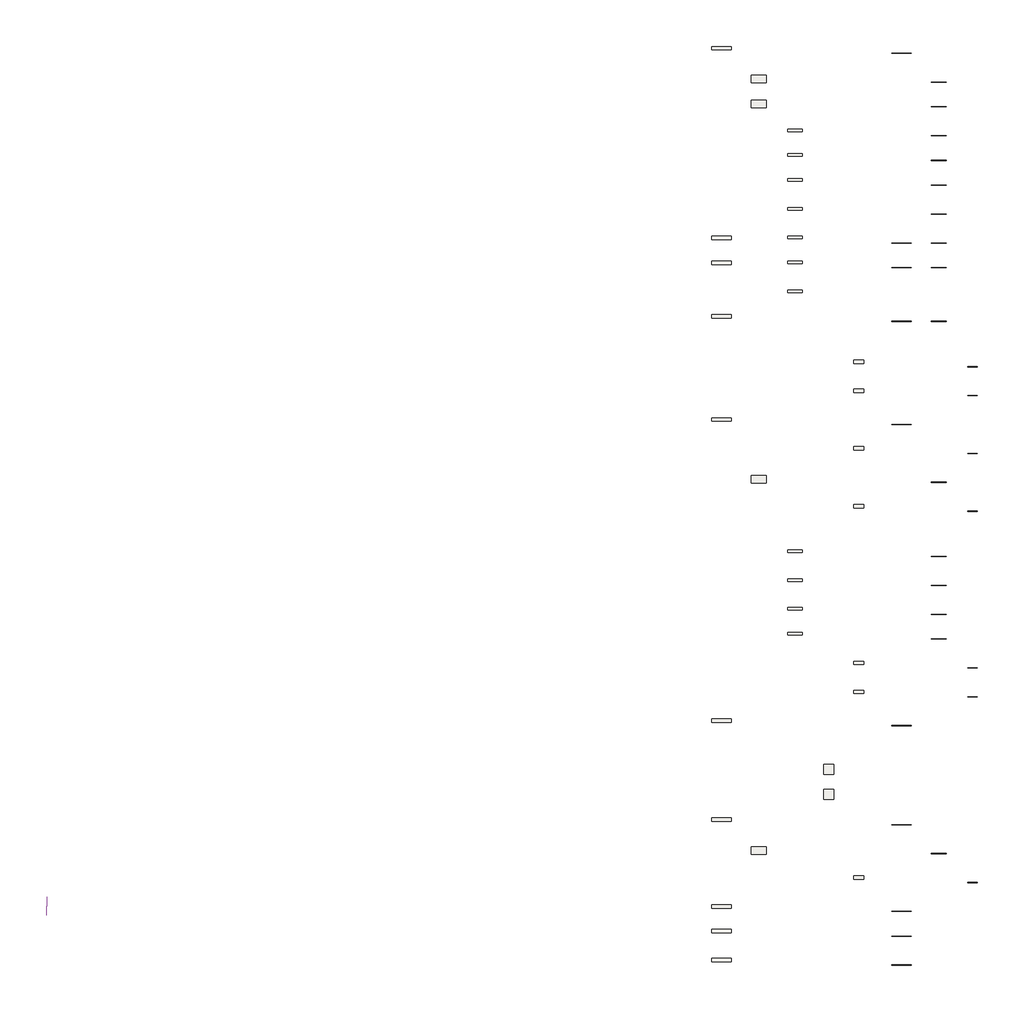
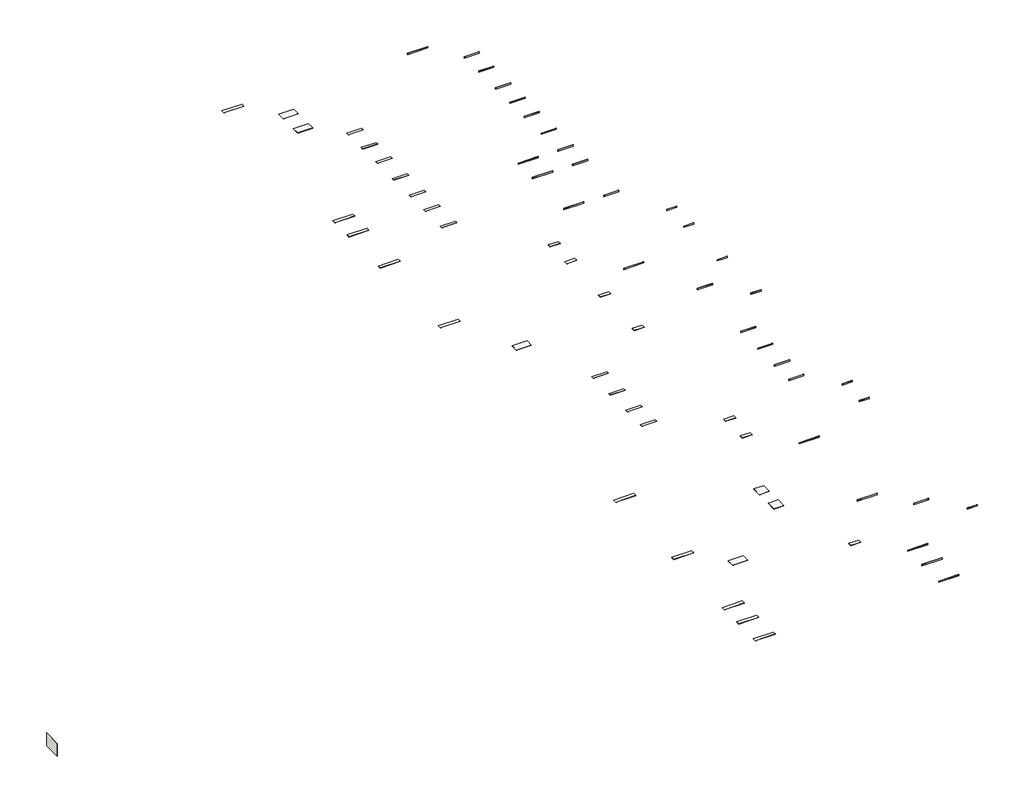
# One storey: 34 slabs, 33 walls, 32 proxies.
"""IFC4 building model written with IfcOpenShell, lengths in millimetres."""

from ifc_helpers import new_model, si_unit, frame, origin, place, context, project, spatial, polyline, outline, extrude, element, save

model = new_model("IFC4")

# Units and contexts
model_context = context("Model", 3, world=origin())
ifc_project = project(units=[si_unit("LENGTHUNIT", "METRE", prefix="MILLI")], contexts=[model_context])

# Site, building, storey
site = spatial("IfcSite", under=ifc_project)
building = spatial("IfcBuilding", under=site)
storey = spatial("IfcBuildingStorey", under=building, Name="apariencia MADERA", Elevation=3000.0)

# Proxies
placement = place(None, origin())
element("IfcBuildingElementProxy", 1, Name="Cesantoni_Alabama_8x120_RO_Alabama_Mate", ObjectType="Cesantoni_Alabama_8x120_RO_Alabama_Mate", at=placement, inside=storey, context=model_context, shape_type="SweptSolid", body=[
    extrude(outline(polyline([(9669.8218898, 374.781227), (9669.8218898, 385.781227), (10869.8218898, 385.781227), (10869.8218898, 374.781227), (9669.8218898, 374.781227)])), frame((0.0, 0.0, 3000.0), z_axis=(0.0, 0.0, 1.0), x_axis=(1.0, 0.0, 0.0)), (0.0, 0.0, 1.0), 80.0),
])
element("IfcBuildingElementProxy", 2, Name="Cesantoni_Astor_8x90_RO_Miel_Mate", ObjectType="Cesantoni_Astor_8x90_RO_Miel_Mate", at=placement, inside=storey, context=model_context, shape_type="SweptSolid", body=[
    extrude(outline(polyline([(12069.8218898, -1375.218773), (12069.8218898, -1364.218773), (12969.8218898, -1364.218773), (12969.8218898, -1375.218773), (12069.8218898, -1375.218773)])), frame((0.0, 0.0, 3000.0), z_axis=(0.0, 0.0, 1.0), x_axis=(1.0, 0.0, 0.0)), (0.0, 0.0, 1.0), 80.0),
])
element("IfcBuildingElementProxy", 3, Name="Cesantoni_Astor_8x90_RO_Arena_Mate", ObjectType="Cesantoni_Astor_8x90_RO_Arena_Mate", at=placement, inside=storey, context=model_context, shape_type="SweptSolid", body=[
    extrude(outline(polyline([(12069.8218898, -2875.218773), (12069.8218898, -2864.218773), (12969.8218898, -2864.218773), (12969.8218898, -2875.218773), (12069.8218898, -2875.218773)])), frame((0.0, 0.0, 3000.0), z_axis=(0.0, 0.0, 1.0), x_axis=(1.0, 0.0, 0.0)), (0.0, 0.0, 1.0), 80.0),
])
element("IfcBuildingElementProxy", 4, Name="Cesantoni_Balau_8x90_RO_Blanco_Mate", ObjectType="Cesantoni_Balau_8x90_RO_Blanco_Mate", at=placement, inside=storey, context=model_context, shape_type="SweptSolid", body=[
    extrude(outline(polyline([(12069.8218898, -4625.218773), (12069.8218898, -4614.218773), (12969.8218898, -4614.218773), (12969.8218898, -4625.218773), (12069.8218898, -4625.218773)])), frame((0.0, 0.0, 3000.0), z_axis=(0.0, 0.0, 1.0), x_axis=(1.0, 0.0, 0.0)), (0.0, 0.0, 1.0), 80.0),
])
element("IfcBuildingElementProxy", 5, Name="Cesantoni_Balau_8x90_RO_Café_Mate", ObjectType="Cesantoni_Balau_8x90_RO_Café_Mate", at=placement, inside=storey, context=model_context, shape_type="SweptSolid", body=[
    extrude(outline(polyline([(12069.8218898, -6125.218773), (12069.8218898, -6114.218773), (12969.8218898, -6114.218773), (12969.8218898, -6125.218773), (12069.8218898, -6125.218773)])), frame((0.0, 0.0, 3000.0), z_axis=(0.0, 0.0, 1.0), x_axis=(1.0, 0.0, 0.0)), (0.0, 0.0, 1.0), 80.0),
])
element("IfcBuildingElementProxy", 6, Name="Cesantoni_Balau_8x90_RO_Rojo_Mate", ObjectType="Cesantoni_Balau_8x90_RO_Rojo_Mate", at=placement, inside=storey, context=model_context, shape_type="SweptSolid", body=[
    extrude(outline(polyline([(12069.8218898, -7625.218773), (12069.8218898, -7614.218773), (12969.8218898, -7614.218773), (12969.8218898, -7625.218773), (12069.8218898, -7625.218773)])), frame((0.0, 0.0, 3000.0), z_axis=(0.0, 0.0, 1.0), x_axis=(1.0, 0.0, 0.0)), (0.0, 0.0, 1.0), 80.0),
])
element("IfcBuildingElementProxy", 7, Name="Cesantoni_Banff_8x90_RO_Caoba_Mate", ObjectType="Cesantoni_Banff_8x90_RO_Caoba_Mate", at=placement, inside=storey, context=model_context, shape_type="SweptSolid", body=[
    extrude(outline(polyline([(12069.8218898, -9375.218773), (12069.8218898, -9364.218773), (12969.8218898, -9364.218773), (12969.8218898, -9375.218773), (12069.8218898, -9375.218773)])), frame((0.0, 0.0, 3000.0), z_axis=(0.0, 0.0, 1.0), x_axis=(1.0, 0.0, 0.0)), (0.0, 0.0, 1.0), 80.0),
])
element("IfcBuildingElementProxy", 8, Name="Cesantoni_Blendwood_8x90_RO_Fummo_Mate", ObjectType="Cesantoni_Blendwood_8x90_RO_Fummo_Mate", at=placement, inside=storey, context=model_context, shape_type="SweptSolid", body=[
    extrude(outline(polyline([(12069.8218898, -11125.218773), (12069.8218898, -11114.218773), (12969.8218898, -11114.218773), (12969.8218898, -11125.218773), (12069.8218898, -11125.218773)])), frame((0.0, 0.0, 3000.0), z_axis=(0.0, 0.0, 1.0), x_axis=(1.0, 0.0, 0.0)), (0.0, 0.0, 1.0), 80.0),
])
element("IfcBuildingElementProxy", 9, Name="Cesantoni_Blendwood_8x90_RO_Canela_Mate", ObjectType="Cesantoni_Blendwood_8x90_RO_Canela_Mate", at=placement, inside=storey, context=model_context, shape_type="SweptSolid", body=[
    extrude(outline(polyline([(12069.8218898, -12625.218773), (12069.8218898, -12614.218773), (12969.8218898, -12614.218773), (12969.8218898, -12625.218773), (12069.8218898, -12625.218773)])), frame((0.0, 0.0, 3000.0), z_axis=(0.0, 0.0, 1.0), x_axis=(1.0, 0.0, 0.0)), (0.0, 0.0, 1.0), 80.0),
])
element("IfcBuildingElementProxy", 10, Name="Cesantoni_Blendwood_8x120_RO_Fummo_Mate", ObjectType="Cesantoni_Blendwood_8x120_RO_Fummo_Mate", at=placement, inside=storey, context=model_context, shape_type="SweptSolid", body=[
    extrude(outline(polyline([(9669.8218898, -11125.218773), (9669.8218898, -11114.218773), (10869.8218898, -11114.218773), (10869.8218898, -11125.218773), (9669.8218898, -11125.218773)])), frame((0.0, 0.0, 3000.0), z_axis=(0.0, 0.0, 1.0), x_axis=(1.0, 0.0, 0.0)), (0.0, 0.0, 1.0), 80.0),
])
element("IfcBuildingElementProxy", 11, Name="Cesantoni_Blendwood_8x120_RO_Canela_Mate", ObjectType="Cesantoni_Blendwood_8x120_RO_Canela_Mate", at=placement, inside=storey, context=model_context, shape_type="SweptSolid", body=[
    extrude(outline(polyline([(9669.8218898, -12625.218773), (9669.8218898, -12614.218773), (10869.8218898, -12614.218773), (10869.8218898, -12625.218773), (9669.8218898, -12625.218773)])), frame((0.0, 0.0, 3000.0), z_axis=(0.0, 0.0, 1.0), x_axis=(1.0, 0.0, 0.0)), (0.0, 0.0, 1.0), 80.0),
])
element("IfcBuildingElementProxy", 12, Name="Cesantoni_Calajan_8x90_RO_Fummo_Mate", ObjectType="Cesantoni_Calajan_8x90_RO_Fummo_Mate", at=placement, inside=storey, context=model_context, shape_type="SweptSolid", body=[
    extrude(outline(polyline([(12069.8218898, -15875.218773), (12069.8218898, -15864.218773), (12969.8218898, -15864.218773), (12969.8218898, -15875.218773), (12069.8218898, -15875.218773)])), frame((0.0, 0.0, 3000.0), z_axis=(0.0, 0.0, 1.0), x_axis=(1.0, 0.0, 0.0)), (0.0, 0.0, 1.0), 80.0),
])
element("IfcBuildingElementProxy", 13, Name="Cesantoni_Calajan_8x120_RO_Fummo_Mate", ObjectType="Cesantoni_Calajan_8x120_RO_Fummo_Mate", at=placement, inside=storey, context=model_context, shape_type="SweptSolid", body=[
    extrude(outline(polyline([(9669.8218898, -15875.218773), (9669.8218898, -15864.218773), (10869.8218898, -15864.218773), (10869.8218898, -15875.218773), (9669.8218898, -15875.218773)])), frame((0.0, 0.0, 3000.0), z_axis=(0.0, 0.0, 1.0), x_axis=(1.0, 0.0, 0.0)), (0.0, 0.0, 1.0), 80.0),
])
element("IfcBuildingElementProxy", 14, Name="Cesantoni_Cannon_Wood_8x60_RO_Cannon_Wood_Mate", ObjectType="Cesantoni_Cannon_Wood_8x60_RO_Cannon_Wood_Mate", at=placement, inside=storey, context=model_context, shape_type="SweptSolid", body=[
    extrude(outline(polyline([(14269.8218898, -18625.218773), (14269.8218898, -18614.218773), (14869.8218898, -18614.218773), (14869.8218898, -18625.218773), (14269.8218898, -18625.218773)])), frame((0.0, 0.0, 3000.0), z_axis=(0.0, 0.0, 1.0), x_axis=(1.0, 0.0, 0.0)), (0.0, 0.0, 1.0), 80.0),
])
element("IfcBuildingElementProxy", 15, Name="Cesantoni_Decker_8x60_RO_Decker_Mate", ObjectType="Cesantoni_Decker_8x60_RO_Decker_Mate", at=placement, inside=storey, context=model_context, shape_type="SweptSolid", body=[
    extrude(outline(polyline([(14269.8218898, -20375.218773), (14269.8218898, -20364.218773), (14869.8218898, -20364.218773), (14869.8218898, -20375.218773), (14269.8218898, -20375.218773)])), frame((0.0, 0.0, 3000.0), z_axis=(0.0, 0.0, 1.0), x_axis=(1.0, 0.0, 0.0)), (0.0, 0.0, 1.0), 80.0),
])
element("IfcBuildingElementProxy", 16, Name="Cesantoni_Denver_8x120_RO_Denver_Mate", ObjectType="Cesantoni_Denver_8x120_RO_Denver_Mate", at=placement, inside=storey, context=model_context, shape_type="SweptSolid", body=[
    extrude(outline(polyline([(9669.8218898, -22125.218773), (9669.8218898, -22114.218773), (10869.8218898, -22114.218773), (10869.8218898, -22125.218773), (9669.8218898, -22125.218773)])), frame((0.0, 0.0, 3000.0), z_axis=(0.0, 0.0, 1.0), x_axis=(1.0, 0.0, 0.0)), (0.0, 0.0, 1.0), 80.0),
])
element("IfcBuildingElementProxy", 17, Name="Cesantoni_Elkwood_8x60_RO_Elkwood_Mate", ObjectType="Cesantoni_Elkwood_8x60_RO_Elkwood_Mate", at=placement, inside=storey, context=model_context, shape_type="SweptSolid", body=[
    extrude(outline(polyline([(14269.8218898, -23875.218773), (14269.8218898, -23864.218773), (14869.8218898, -23864.218773), (14869.8218898, -23875.218773), (14269.8218898, -23875.218773)])), frame((0.0, 0.0, 3000.0), z_axis=(0.0, 0.0, 1.0), x_axis=(1.0, 0.0, 0.0)), (0.0, 0.0, 1.0), 80.0),
])
element("IfcBuildingElementProxy", 18, Name="Cesantoni_Greensboro_8x90_RO_Greensboro_Mate", ObjectType="Cesantoni_Greensboro_8x90_RO_Greensboro_Mate", at=placement, inside=storey, context=model_context, shape_type="SweptSolid", body=[
    extrude(outline(polyline([(12069.8218898, -25625.218773), (12069.8218898, -25614.218773), (12969.8218898, -25614.218773), (12969.8218898, -25625.218773), (12069.8218898, -25625.218773)])), frame((0.0, 0.0, 3000.0), z_axis=(0.0, 0.0, 1.0), x_axis=(1.0, 0.0, 0.0)), (0.0, 0.0, 1.0), 80.0),
])
element("IfcBuildingElementProxy", 19, Name="Cesantoni_Hanover_8x60_RO_Hanover_Mate", ObjectType="Cesantoni_Hanover_8x60_RO_Hanover_Mate", at=placement, inside=storey, context=model_context, shape_type="SweptSolid", body=[
    extrude(outline(polyline([(14269.8218898, -27375.218773), (14269.8218898, -27364.218773), (14869.8218898, -27364.218773), (14869.8218898, -27375.218773), (14269.8218898, -27375.218773)])), frame((0.0, 0.0, 3000.0), z_axis=(0.0, 0.0, 1.0), x_axis=(1.0, 0.0, 0.0)), (0.0, 0.0, 1.0), 80.0),
])
element("IfcBuildingElementProxy", 20, Name="Cesantoni_Hubbert_8x90_RO_Hubbert_Mate", ObjectType="Cesantoni_Hubbert_8x90_RO_Hubbert_Mate", at=placement, inside=storey, context=model_context, shape_type="SweptSolid", body=[
    extrude(outline(polyline([(12069.8218898, -30125.218773), (12069.8218898, -30114.218773), (12969.8218898, -30114.218773), (12969.8218898, -30125.218773), (12069.8218898, -30125.218773)])), frame((0.0, 0.0, 3000.0), z_axis=(0.0, 0.0, 1.0), x_axis=(1.0, 0.0, 0.0)), (0.0, 0.0, 1.0), 80.0),
])
element("IfcBuildingElementProxy", 21, Name="Cesantoni_Kant_8x90_RO_Moka_Mate", ObjectType="Cesantoni_Kant_8x90_RO_Moka_Mate", at=placement, inside=storey, context=model_context, shape_type="SweptSolid", body=[
    extrude(outline(polyline([(12069.8218898, -31875.218773), (12069.8218898, -31864.218773), (12969.8218898, -31864.218773), (12969.8218898, -31875.218773), (12069.8218898, -31875.218773)])), frame((0.0, 0.0, 3000.0), z_axis=(0.0, 0.0, 1.0), x_axis=(1.0, 0.0, 0.0)), (0.0, 0.0, 1.0), 80.0),
])
element("IfcBuildingElementProxy", 22, Name="Cesantoni_Lubeck_8x90_RO_Castaña_Mate", ObjectType="Cesantoni_Lubeck_8x90_RO_Castaña_Mate", at=placement, inside=storey, context=model_context, shape_type="SweptSolid", body=[
    extrude(outline(polyline([(12069.8218898, -33625.218773), (12069.8218898, -33614.218773), (12969.8218898, -33614.218773), (12969.8218898, -33625.218773), (12069.8218898, -33625.218773)])), frame((0.0, 0.0, 3000.0), z_axis=(0.0, 0.0, 1.0), x_axis=(1.0, 0.0, 0.0)), (0.0, 0.0, 1.0), 80.0),
])
element("IfcBuildingElementProxy", 23, Name="Cesantoni_Memphis_8x60_RO_Memphis_Mate", ObjectType="Cesantoni_Memphis_8x60_RO_Memphis_Mate", at=placement, inside=storey, context=model_context, shape_type="SweptSolid", body=[
    extrude(outline(polyline([(14269.8218898, -36875.218773), (14269.8218898, -36864.218773), (14869.8218898, -36864.218773), (14869.8218898, -36875.218773), (14269.8218898, -36875.218773)])), frame((0.0, 0.0, 3000.0), z_axis=(0.0, 0.0, 1.0), x_axis=(1.0, 0.0, 0.0)), (0.0, 0.0, 1.0), 80.0),
])
element("IfcBuildingElementProxy", 24, Name="Cesantoni_Nebraska_8x60_RO_Nebraska_Mate", ObjectType="Cesantoni_Nebraska_8x60_RO_Nebraska_Mate", at=placement, inside=storey, context=model_context, shape_type="SweptSolid", body=[
    extrude(outline(polyline([(14269.8218898, -38625.218773), (14269.8218898, -38614.218773), (14869.8218898, -38614.218773), (14869.8218898, -38625.218773), (14269.8218898, -38625.218773)])), frame((0.0, 0.0, 3000.0), z_axis=(0.0, 0.0, 1.0), x_axis=(1.0, 0.0, 0.0)), (0.0, 0.0, 1.0), 80.0),
])
element("IfcBuildingElementProxy", 25, Name="Cesantoni_Nekk_8x120_RO_Nekk_Mate", ObjectType="Cesantoni_Nekk_8x120_RO_Nekk_Mate", at=placement, inside=storey, context=model_context, shape_type="SweptSolid", body=[
    extrude(outline(polyline([(9669.8218898, -40375.218773), (9669.8218898, -40364.218773), (10869.8218898, -40364.218773), (10869.8218898, -40375.218773), (9669.8218898, -40375.218773)])), frame((0.0, 0.0, 3000.0), z_axis=(0.0, 0.0, 1.0), x_axis=(1.0, 0.0, 0.0)), (0.0, 0.0, 1.0), 80.0),
])
element("IfcBuildingElementProxy", 26, Name="Cesantoni_Riverwood_8x120_RO_Riverwood_Mate", ObjectType="Cesantoni_Riverwood_8x120_RO_Riverwood_Mate", at=placement, inside=storey, context=model_context, shape_type="SweptSolid", body=[
    extrude(outline(polyline([(9669.8218898, -46375.218773), (9669.8218898, -46364.218773), (10869.8218898, -46364.218773), (10869.8218898, -46375.218773), (9669.8218898, -46375.218773)])), frame((0.0, 0.0, 3000.0), z_axis=(0.0, 0.0, 1.0), x_axis=(1.0, 0.0, 0.0)), (0.0, 0.0, 1.0), 80.0),
])
element("IfcBuildingElementProxy", 27, Name="Cesantoni_Roble_8x90_RO_Roble_Mate", ObjectType="Cesantoni_Roble_8x90_RO_Roble_Mate", at=placement, inside=storey, context=model_context, shape_type="SweptSolid", body=[
    extrude(outline(polyline([(12069.8218898, -48125.218773), (12069.8218898, -48114.218773), (12969.8218898, -48114.218773), (12969.8218898, -48125.218773), (12069.8218898, -48125.218773)])), frame((0.0, 0.0, 3000.0), z_axis=(0.0, 0.0, 1.0), x_axis=(1.0, 0.0, 0.0)), (0.0, 0.0, 1.0), 80.0),
])
element("IfcBuildingElementProxy", 28, Name="Cesantoni_Stockton_8x60_RO_Stockton_Mate", ObjectType="Cesantoni_Stockton_8x60_RO_Stockton_Mate", at=placement, inside=storey, context=model_context, shape_type="SweptSolid", body=[
    extrude(outline(polyline([(14269.8218898, -49875.218773), (14269.8218898, -49864.218773), (14869.8218898, -49864.218773), (14869.8218898, -49875.218773), (14269.8218898, -49875.218773)])), frame((0.0, 0.0, 3000.0), z_axis=(0.0, 0.0, 1.0), x_axis=(1.0, 0.0, 0.0)), (0.0, 0.0, 1.0), 80.0),
])
element("IfcBuildingElementProxy", 29, Name="Cesantoni_Vali_8x120_RO_Fummo_Mate", ObjectType="Cesantoni_Vali_8x120_RO_Fummo_Mate", at=placement, inside=storey, context=model_context, shape_type="SweptSolid", body=[
    extrude(outline(polyline([(9669.8218898, -51625.218773), (9669.8218898, -51614.218773), (10869.8218898, -51614.218773), (10869.8218898, -51625.218773), (9669.8218898, -51625.218773)])), frame((0.0, 0.0, 3000.0), z_axis=(0.0, 0.0, 1.0), x_axis=(1.0, 0.0, 0.0)), (0.0, 0.0, 1.0), 80.0),
])
element("IfcBuildingElementProxy", 30, Name="Cesantoni_Vali_8x120_RO_Moka_Mate", ObjectType="Cesantoni_Vali_8x120_RO_Moka_Mate", at=placement, inside=storey, context=model_context, shape_type="SweptSolid", body=[
    extrude(outline(polyline([(9669.8218898, -53125.218773), (9669.8218898, -53114.218773), (10869.8218898, -53114.218773), (10869.8218898, -53125.218773), (9669.8218898, -53125.218773)])), frame((0.0, 0.0, 3000.0), z_axis=(0.0, 0.0, 1.0), x_axis=(1.0, 0.0, 0.0)), (0.0, 0.0, 1.0), 80.0),
])
element("IfcBuildingElementProxy", 31, Name="Cesantoni_Vermont_8x120_RO_Vermont_Mate", ObjectType="Cesantoni_Vermont_8x120_RO_Vermont_Mate", at=placement, inside=storey, context=model_context, shape_type="SweptSolid", body=[
    extrude(outline(polyline([(9669.8218898, -54875.218773), (9669.8218898, -54864.218773), (10869.8218898, -54864.218773), (10869.8218898, -54875.218773), (9669.8218898, -54875.218773)])), frame((0.0, 0.0, 3000.0), z_axis=(0.0, 0.0, 1.0), x_axis=(1.0, 0.0, 0.0)), (0.0, 0.0, 1.0), 80.0),
])
element("IfcBuildingElementProxy", 32, Name="Cesantoni_Lubeck_8x90_RO_Tabaco_Mate", ObjectType="Cesantoni_Lubeck_8x90_RO_Tabaco_Mate", at=placement, inside=storey, context=model_context, shape_type="SweptSolid", body=[
    extrude(outline(polyline([(12069.8218898, -35125.218773), (12069.8218898, -35114.218773), (12969.8218898, -35114.218773), (12969.8218898, -35125.218773), (12069.8218898, -35125.218773)])), frame((0.0, 0.0, 3000.0), z_axis=(0.0, 0.0, 1.0), x_axis=(1.0, 0.0, 0.0)), (0.0, 0.0, 1.0), 80.0),
])

# Slabs
element("IfcSlab", 33, ObjectType="Cesantoni_Alabama_20x120_RECT_Alabama_Mate", at=placement, inside=storey, context=model_context, shape_type="SweptSolid", body=[
    extrude(outline(polyline([(-28.1781102, 784.4826442), (-28.1781102, 582.4826442), (-1230.1781102, 582.4826442), (-1230.1781102, 784.4826442), (-28.1781102, 784.4826442)])), frame((0.0, 0.0, 2989.0), z_axis=(0.0, 0.0, 1.0), x_axis=(1.0, 0.0, 0.0)), (0.0, 0.0, 1.0), 11.0),
])
element("IfcSlab", 34, ObjectType="Cesantoni_Astor_45x90_RECT_Miel_Mate", at=placement, inside=storey, context=model_context, shape_type="SweptSolid", body=[
    extrude(outline(polyline([(2071.8218898, -965.5173558), (2071.8218898, -1417.5173558), (1169.8218898, -1417.5173558), (1169.8218898, -965.5173558), (2071.8218898, -965.5173558)])), frame((0.0, 0.0, 2989.0), z_axis=(0.0, 0.0, 1.0), x_axis=(1.0, 0.0, 0.0)), (0.0, 0.0, 1.0), 11.0),
])
element("IfcSlab", 35, ObjectType="Cesantoni_Astor_45x90_RECT_Arena_Mate", at=placement, inside=storey, context=model_context, shape_type="SweptSolid", body=[
    extrude(outline(polyline([(2071.8218898, -2465.5173558), (2071.8218898, -2917.5173558), (1169.8218898, -2917.5173558), (1169.8218898, -2465.5173558), (2071.8218898, -2465.5173558)])), frame((0.0, 0.0, 2989.0), z_axis=(0.0, 0.0, 1.0), x_axis=(1.0, 0.0, 0.0)), (0.0, 0.0, 1.0), 11.0),
])
element("IfcSlab", 36, ObjectType="Cesantoni_Balau_15x90_Blanco_Mate", at=placement, inside=storey, context=model_context, shape_type="SweptSolid", body=[
    extrude(outline(polyline([(4271.8218898, -4215.5173558), (4271.8218898, -4367.5173558), (3369.8218898, -4367.5173558), (3369.8218898, -4215.5173558), (4271.8218898, -4215.5173558)])), frame((0.0, 0.0, 2989.0), z_axis=(0.0, 0.0, 1.0), x_axis=(1.0, 0.0, 0.0)), (0.0, 0.0, 1.0), 11.0),
])
element("IfcSlab", 37, ObjectType="Cesantoni_Balau_15x90_Café_Mate", at=placement, inside=storey, context=model_context, shape_type="SweptSolid", body=[
    extrude(outline(polyline([(4271.8218898, -5715.5173558), (4271.8218898, -5867.5173558), (3369.8218898, -5867.5173558), (3369.8218898, -5715.5173558), (4271.8218898, -5715.5173558)])), frame((0.0, 0.0, 2989.0), z_axis=(0.0, 0.0, 1.0), x_axis=(1.0, 0.0, 0.0)), (0.0, 0.0, 1.0), 11.0),
])
element("IfcSlab", 38, ObjectType="Cesantoni_Balau_15x90_Rojo_Mate", at=placement, inside=storey, context=model_context, shape_type="SweptSolid", body=[
    extrude(outline(polyline([(4271.8218898, -7215.5173558), (4271.8218898, -7367.5173558), (3369.8218898, -7367.5173558), (3369.8218898, -7215.5173558), (4271.8218898, -7215.5173558)])), frame((0.0, 0.0, 2989.0), z_axis=(0.0, 0.0, 1.0), x_axis=(1.0, 0.0, 0.0)), (0.0, 0.0, 1.0), 11.0),
])
element("IfcSlab", 39, ObjectType="Cesantoni_Banff_15x90_Caoba_Mate", at=placement, inside=storey, context=model_context, shape_type="SweptSolid", body=[
    extrude(outline(polyline([(4271.8218898, -8965.5173558), (4271.8218898, -9117.5173558), (3369.8218898, -9117.5173558), (3369.8218898, -8965.5173558), (4271.8218898, -8965.5173558)])), frame((0.0, 0.0, 2989.0), z_axis=(0.0, 0.0, 1.0), x_axis=(1.0, 0.0, 0.0)), (0.0, 0.0, 1.0), 11.0),
])
element("IfcSlab", 40, ObjectType="Cesantoni_Blendwood_15x90_Fummo_Mate", at=placement, inside=storey, context=model_context, shape_type="SweptSolid", body=[
    extrude(outline(polyline([(4271.8218898, -10715.5173558), (4271.8218898, -10867.5173558), (3369.8218898, -10867.5173558), (3369.8218898, -10715.5173558), (4271.8218898, -10715.5173558)])), frame((0.0, 0.0, 2989.0), z_axis=(0.0, 0.0, 1.0), x_axis=(1.0, 0.0, 0.0)), (0.0, 0.0, 1.0), 11.0),
])
element("IfcSlab", 41, ObjectType="Cesantoni_Blendwood_15x90_Canela_Mate", at=placement, inside=storey, context=model_context, shape_type="SweptSolid", body=[
    extrude(outline(polyline([(4271.8218898, -12215.5173558), (4271.8218898, -12367.5173558), (3369.8218898, -12367.5173558), (3369.8218898, -12215.5173558), (4271.8218898, -12215.5173558)])), frame((0.0, 0.0, 2989.0), z_axis=(0.0, 0.0, 1.0), x_axis=(1.0, 0.0, 0.0)), (0.0, 0.0, 1.0), 11.0),
])
element("IfcSlab", 42, ObjectType="Cesantoni_Blendwood_20x120_RECT_Fummo_Mate", at=placement, inside=storey, context=model_context, shape_type="SweptSolid", body=[
    extrude(outline(polyline([(-28.1781102, -10715.5173558), (-28.1781102, -10917.5173558), (-1230.1781102, -10917.5173558), (-1230.1781102, -10715.5173558), (-28.1781102, -10715.5173558)])), frame((0.0, 0.0, 2989.0), z_axis=(0.0, 0.0, 1.0), x_axis=(1.0, 0.0, 0.0)), (0.0, 0.0, 1.0), 11.0),
])
element("IfcSlab", 43, ObjectType="Cesantoni_Blendwood_20x120_RECT_Canela_Mate", at=placement, inside=storey, context=model_context, shape_type="SweptSolid", body=[
    extrude(outline(polyline([(-28.1781102, -12215.5173558), (-28.1781102, -12417.5173558), (-1230.1781102, -12417.5173558), (-1230.1781102, -12215.5173558), (-28.1781102, -12215.5173558)])), frame((0.0, 0.0, 2989.0), z_axis=(0.0, 0.0, 1.0), x_axis=(1.0, 0.0, 0.0)), (0.0, 0.0, 1.0), 11.0),
])
element("IfcSlab", 44, ObjectType="Cesantoni_Calajan_15x90_Fummo_Mate", at=placement, inside=storey, context=model_context, shape_type="SweptSolid", body=[
    extrude(outline(polyline([(4271.8218898, -13965.5173558), (4271.8218898, -14117.5173558), (3369.8218898, -14117.5173558), (3369.8218898, -13965.5173558), (4271.8218898, -13965.5173558)])), frame((0.0, 0.0, 2989.0), z_axis=(0.0, 0.0, 1.0), x_axis=(1.0, 0.0, 0.0)), (0.0, 0.0, 1.0), 11.0),
])
element("IfcSlab", 45, ObjectType="Cesantoni_Calajan_20x120_RECT_Fummo_Mate", at=placement, inside=storey, context=model_context, shape_type="SweptSolid", body=[
    extrude(outline(polyline([(-28.1781102, -15465.5173558), (-28.1781102, -15667.5173558), (-1230.1781102, -15667.5173558), (-1230.1781102, -15465.5173558), (-28.1781102, -15465.5173558)])), frame((0.0, 0.0, 2989.0), z_axis=(0.0, 0.0, 1.0), x_axis=(1.0, 0.0, 0.0)), (0.0, 0.0, 1.0), 11.0),
])
element("IfcSlab", 46, ObjectType="Cesantoni_Cannon_Wood_20x60_Cannon_Wood_Mate", at=placement, inside=storey, context=model_context, shape_type="SweptSolid", body=[
    extrude(outline(polyline([(7973.8218898, -18215.5173558), (7973.8218898, -18419.5173558), (7369.8218898, -18419.5173558), (7369.8218898, -18215.5173558), (7973.8218898, -18215.5173558)])), frame((0.0, 0.0, 2990.5), z_axis=(0.0, 0.0, 1.0), x_axis=(1.0, 0.0, 0.0)), (0.0, 0.0, 1.0), 9.5),
])
element("IfcSlab", 47, ObjectType="Cesantoni_Decker_20x60_Decker_Mate", at=placement, inside=storey, context=model_context, shape_type="SweptSolid", body=[
    extrude(outline(polyline([(7973.8218898, -19965.5173558), (7973.8218898, -20169.5173558), (7369.8218898, -20169.5173558), (7369.8218898, -19965.5173558), (7973.8218898, -19965.5173558)])), frame((0.0, 0.0, 2990.5), z_axis=(0.0, 0.0, 1.0), x_axis=(1.0, 0.0, 0.0)), (0.0, 0.0, 1.0), 9.5),
])
element("IfcSlab", 48, ObjectType="Cesantoni_Denver_20x120_RECT_Denver_Mate", at=placement, inside=storey, context=model_context, shape_type="SweptSolid", body=[
    extrude(outline(polyline([(-28.1781102, -21715.5173558), (-28.1781102, -21917.5173558), (-1230.1781102, -21917.5173558), (-1230.1781102, -21715.5173558), (-28.1781102, -21715.5173558)])), frame((0.0, 0.0, 2989.0), z_axis=(0.0, 0.0, 1.0), x_axis=(1.0, 0.0, 0.0)), (0.0, 0.0, 1.0), 11.0),
])
element("IfcSlab", 49, ObjectType="Cesantoni_Elkwood_20x60_Elkwood_Mate", at=placement, inside=storey, context=model_context, shape_type="SweptSolid", body=[
    extrude(outline(polyline([(7973.8218898, -23465.5173558), (7973.8218898, -23669.5173558), (7369.8218898, -23669.5173558), (7369.8218898, -23465.5173558), (7973.8218898, -23465.5173558)])), frame((0.0, 0.0, 2990.5), z_axis=(0.0, 0.0, 1.0), x_axis=(1.0, 0.0, 0.0)), (0.0, 0.0, 1.0), 9.5),
])
element("IfcSlab", 50, ObjectType="Cesantoni_Greensboro_45x90_RECT_Greensboro_Mate", at=placement, inside=storey, context=model_context, shape_type="SweptSolid", body=[
    extrude(outline(polyline([(2071.8218898, -25215.5173558), (2071.8218898, -25667.5173558), (1169.8218898, -25667.5173558), (1169.8218898, -25215.5173558), (2071.8218898, -25215.5173558)])), frame((0.0, 0.0, 2989.0), z_axis=(0.0, 0.0, 1.0), x_axis=(1.0, 0.0, 0.0)), (0.0, 0.0, 1.0), 11.0),
])
element("IfcSlab", 51, ObjectType="Cesantoni_Hanover_20x60_Hanover_Mate", at=placement, inside=storey, context=model_context, shape_type="SweptSolid", body=[
    extrude(outline(polyline([(7973.8218898, -26965.5173558), (7973.8218898, -27169.5173558), (7369.8218898, -27169.5173558), (7369.8218898, -26965.5173558), (7973.8218898, -26965.5173558)])), frame((0.0, 0.0, 2990.5), z_axis=(0.0, 0.0, 1.0), x_axis=(1.0, 0.0, 0.0)), (0.0, 0.0, 1.0), 9.5),
])
element("IfcSlab", 52, ObjectType="Cesantoni_Hubbert_15x90_Hubbert_Mate", at=placement, inside=storey, context=model_context, shape_type="SweptSolid", body=[
    extrude(outline(polyline([(4271.8218898, -29715.5173558), (4271.8218898, -29867.5173558), (3369.8218898, -29867.5173558), (3369.8218898, -29715.5173558), (4271.8218898, -29715.5173558)])), frame((0.0, 0.0, 2989.0), z_axis=(0.0, 0.0, 1.0), x_axis=(1.0, 0.0, 0.0)), (0.0, 0.0, 1.0), 11.0),
])
element("IfcSlab", 53, ObjectType="Cesantoni_Kant_15x90_Moka_Mate", at=placement, inside=storey, context=model_context, shape_type="SweptSolid", body=[
    extrude(outline(polyline([(4271.8218898, -31465.5173558), (4271.8218898, -31617.5173558), (3369.8218898, -31617.5173558), (3369.8218898, -31465.5173558), (4271.8218898, -31465.5173558)])), frame((0.0, 0.0, 2989.0), z_axis=(0.0, 0.0, 1.0), x_axis=(1.0, 0.0, 0.0)), (0.0, 0.0, 1.0), 11.0),
])
element("IfcSlab", 54, ObjectType="Cesantoni_Lubeck_15x90_Castaña_Mate", at=placement, inside=storey, context=model_context, shape_type="SweptSolid", body=[
    extrude(outline(polyline([(4271.8218898, -33215.5173558), (4271.8218898, -33367.5173558), (3369.8218898, -33367.5173558), (3369.8218898, -33215.5173558), (4271.8218898, -33215.5173558)])), frame((0.0, 0.0, 2989.0), z_axis=(0.0, 0.0, 1.0), x_axis=(1.0, 0.0, 0.0)), (0.0, 0.0, 1.0), 11.0),
])
element("IfcSlab", 55, ObjectType="Cesantoni_Lubeck_15x90_Tabaco_Mate", at=placement, inside=storey, context=model_context, shape_type="SweptSolid", body=[
    extrude(outline(polyline([(4271.8218898, -34715.5173558), (4271.8218898, -34867.5173558), (3369.8218898, -34867.5173558), (3369.8218898, -34715.5173558), (4271.8218898, -34715.5173558)])), frame((0.0, 0.0, 2989.0), z_axis=(0.0, 0.0, 1.0), x_axis=(1.0, 0.0, 0.0)), (0.0, 0.0, 1.0), 11.0),
])
element("IfcSlab", 56, ObjectType="Cesantoni_Memphis_20x60_Memphis_Mate", at=placement, inside=storey, context=model_context, shape_type="SweptSolid", body=[
    extrude(outline(polyline([(7973.8218898, -36465.5173558), (7973.8218898, -36669.5173558), (7369.8218898, -36669.5173558), (7369.8218898, -36465.5173558), (7973.8218898, -36465.5173558)])), frame((0.0, 0.0, 2990.5), z_axis=(0.0, 0.0, 1.0), x_axis=(1.0, 0.0, 0.0)), (0.0, 0.0, 1.0), 9.5),
])
element("IfcSlab", 57, ObjectType="Cesantoni_Nebraska_20x60_Nebraska_Mate", at=placement, inside=storey, context=model_context, shape_type="SweptSolid", body=[
    extrude(outline(polyline([(7973.8218898, -38215.5173558), (7973.8218898, -38419.5173558), (7369.8218898, -38419.5173558), (7369.8218898, -38215.5173558), (7973.8218898, -38215.5173558)])), frame((0.0, 0.0, 2990.5), z_axis=(0.0, 0.0, 1.0), x_axis=(1.0, 0.0, 0.0)), (0.0, 0.0, 1.0), 9.5),
])
element("IfcSlab", 58, ObjectType="Cesantoni_Nekk_20x120_RECT_Nekk_Mate", at=placement, inside=storey, context=model_context, shape_type="SweptSolid", body=[
    extrude(outline(polyline([(-28.1781102, -39965.5173558), (-28.1781102, -40167.5173558), (-1230.1781102, -40167.5173558), (-1230.1781102, -39965.5173558), (-28.1781102, -39965.5173558)])), frame((0.0, 0.0, 2989.0), z_axis=(0.0, 0.0, 1.0), x_axis=(1.0, 0.0, 0.0)), (0.0, 0.0, 1.0), 11.0),
])
element("IfcSlab", 59, ObjectType="Cesantoni_Parquet_60x60_RECT_Habano_Mate", at=placement, inside=storey, context=model_context, shape_type="SweptSolid", body=[
    extrude(outline(polyline([(6171.8218898, -42715.5173558), (6171.8218898, -43317.5173558), (5569.8218898, -43317.5173558), (5569.8218898, -42715.5173558), (6171.8218898, -42715.5173558)])), frame((0.0, 0.0, 2989.0), z_axis=(0.0, 0.0, 1.0), x_axis=(1.0, 0.0, 0.0)), (0.0, 0.0, 1.0), 11.0),
])
element("IfcSlab", 60, ObjectType="Cesantoni_Parquet_60x60_RECT_Olmo Gris_Mate", at=placement, inside=storey, context=model_context, shape_type="SweptSolid", body=[
    extrude(outline(polyline([(6171.8218898, -44215.5173558), (6171.8218898, -44817.5173558), (5569.8218898, -44817.5173558), (5569.8218898, -44215.5173558), (6171.8218898, -44215.5173558)])), frame((0.0, 0.0, 2989.0), z_axis=(0.0, 0.0, 1.0), x_axis=(1.0, 0.0, 0.0)), (0.0, 0.0, 1.0), 11.0),
])
element("IfcSlab", 61, ObjectType="Cesantoni_Riverwood_20x120_RECT_Riverwood_Mate", at=placement, inside=storey, context=model_context, shape_type="SweptSolid", body=[
    extrude(outline(polyline([(-28.1781102, -45965.5173558), (-28.1781102, -46167.5173558), (-1230.1781102, -46167.5173558), (-1230.1781102, -45965.5173558), (-28.1781102, -45965.5173558)])), frame((0.0, 0.0, 2989.0), z_axis=(0.0, 0.0, 1.0), x_axis=(1.0, 0.0, 0.0)), (0.0, 0.0, 1.0), 11.0),
])
element("IfcSlab", 62, ObjectType="Cesantoni_Roble_45x90_RECT_Roble_Mate", at=placement, inside=storey, context=model_context, shape_type="SweptSolid", body=[
    extrude(outline(polyline([(2071.8218898, -47715.5173558), (2071.8218898, -48167.5173558), (1169.8218898, -48167.5173558), (1169.8218898, -47715.5173558), (2071.8218898, -47715.5173558)])), frame((0.0, 0.0, 2989.0), z_axis=(0.0, 0.0, 1.0), x_axis=(1.0, 0.0, 0.0)), (0.0, 0.0, 1.0), 11.0),
])
element("IfcSlab", 63, ObjectType="Cesantoni_Stockton_20x60_Stockton_Mate", at=placement, inside=storey, context=model_context, shape_type="SweptSolid", body=[
    extrude(outline(polyline([(7973.8218898, -49465.5173558), (7973.8218898, -49669.5173558), (7369.8218898, -49669.5173558), (7369.8218898, -49465.5173558), (7973.8218898, -49465.5173558)])), frame((0.0, 0.0, 2990.5), z_axis=(0.0, 0.0, 1.0), x_axis=(1.0, 0.0, 0.0)), (0.0, 0.0, 1.0), 9.5),
])
element("IfcSlab", 64, ObjectType="Cesantoni_Vali_20x120_RECT_Fummo_Mate", at=placement, inside=storey, context=model_context, shape_type="SweptSolid", body=[
    extrude(outline(polyline([(-28.1781102, -51215.5173558), (-28.1781102, -51417.5173558), (-1230.1781102, -51417.5173558), (-1230.1781102, -51215.5173558), (-28.1781102, -51215.5173558)])), frame((0.0, 0.0, 2989.0), z_axis=(0.0, 0.0, 1.0), x_axis=(1.0, 0.0, 0.0)), (0.0, 0.0, 1.0), 11.0),
])
element("IfcSlab", 65, ObjectType="Cesantoni_Vali_20x120_RECT_Moka_Mate", at=placement, inside=storey, context=model_context, shape_type="SweptSolid", body=[
    extrude(outline(polyline([(-28.1781102, -52715.5173558), (-28.1781102, -52917.5173558), (-1230.1781102, -52917.5173558), (-1230.1781102, -52715.5173558), (-28.1781102, -52715.5173558)])), frame((0.0, 0.0, 2989.0), z_axis=(0.0, 0.0, 1.0), x_axis=(1.0, 0.0, 0.0)), (0.0, 0.0, 1.0), 11.0),
])
element("IfcSlab", 66, ObjectType="Cesantoni_Vermont_20x120_RECT_Vermont_Mate", at=placement, inside=storey, context=model_context, shape_type="SweptSolid", body=[
    extrude(outline(polyline([(-28.1781102, -54465.5173558), (-28.1781102, -54667.5173558), (-1230.1781102, -54667.5173558), (-1230.1781102, -54465.5173558), (-28.1781102, -54465.5173558)])), frame((0.0, 0.0, 2989.0), z_axis=(0.0, 0.0, 1.0), x_axis=(1.0, 0.0, 0.0)), (0.0, 0.0, 1.0), 11.0),
])

# Walls
element("IfcWall", 67, ObjectType="Muro básico:muro", at=placement, inside=storey, context=model_context, shape_type="SweptSolid", body=[
    extrude(outline(polyline([(10869.8218898, 385.781227), (9669.8218898, 385.781227), (9669.8218898, 386.781227), (10869.8218898, 386.781227), (10869.8218898, 385.781227)])), frame((0.0, 0.0, 3000.0), z_axis=(0.0, 0.0, 1.0), x_axis=(1.0, 0.0, 0.0)), (0.0, 0.0, 1.0), 40.0),
])
element("IfcWall", 68, ObjectType="Muro básico:muro", at=placement, inside=storey, context=model_context, shape_type="SweptSolid", body=[
    extrude(outline(polyline([(12969.8218898, -1364.218773), (12069.8218898, -1364.218773), (12069.8218898, -1363.218773), (12969.8218898, -1363.218773), (12969.8218898, -1364.218773)])), frame((0.0, 0.0, 3000.0), z_axis=(0.0, 0.0, 1.0), x_axis=(1.0, 0.0, 0.0)), (0.0, 0.0, 1.0), 40.0),
])
element("IfcWall", 69, ObjectType="Muro básico:muro", at=placement, inside=storey, context=model_context, shape_type="SweptSolid", body=[
    extrude(outline(polyline([(12969.8218898, -2864.218773), (12069.8218898, -2864.218773), (12069.8218898, -2863.218773), (12969.8218898, -2863.218773), (12969.8218898, -2864.218773)])), frame((0.0, 0.0, 3000.0), z_axis=(0.0, 0.0, 1.0), x_axis=(1.0, 0.0, 0.0)), (0.0, 0.0, 1.0), 40.0),
])
element("IfcWall", 70, ObjectType="Muro básico:muro", at=placement, inside=storey, context=model_context, shape_type="SweptSolid", body=[
    extrude(outline(polyline([(12969.8218898, -4614.218773), (12069.8218898, -4614.218773), (12069.8218898, -4613.218773), (12969.8218898, -4613.218773), (12969.8218898, -4614.218773)])), frame((0.0, 0.0, 3000.0), z_axis=(0.0, 0.0, 1.0), x_axis=(1.0, 0.0, 0.0)), (0.0, 0.0, 1.0), 40.0),
])
element("IfcWall", 71, ObjectType="Muro básico:muro", at=placement, inside=storey, context=model_context, shape_type="SweptSolid", body=[
    extrude(outline(polyline([(12969.8218898, -6114.218773), (12069.8218898, -6114.218773), (12069.8218898, -6113.218773), (12969.8218898, -6113.218773), (12969.8218898, -6114.218773)])), frame((0.0, 0.0, 3000.0), z_axis=(0.0, 0.0, 1.0), x_axis=(1.0, 0.0, 0.0)), (0.0, 0.0, 1.0), 40.0),
])
element("IfcWall", 72, ObjectType="Muro básico:muro", at=placement, inside=storey, context=model_context, shape_type="SweptSolid", body=[
    extrude(outline(polyline([(12969.8218898, -7614.218773), (12069.8218898, -7614.218773), (12069.8218898, -7613.218773), (12969.8218898, -7613.218773), (12969.8218898, -7614.218773)])), frame((0.0, 0.0, 3000.0), z_axis=(0.0, 0.0, 1.0), x_axis=(1.0, 0.0, 0.0)), (0.0, 0.0, 1.0), 40.0),
])
element("IfcWall", 73, ObjectType="Muro básico:muro", at=placement, inside=storey, context=model_context, shape_type="SweptSolid", body=[
    extrude(outline(polyline([(12969.8218898, -9364.218773), (12069.8218898, -9364.218773), (12069.8218898, -9363.218773), (12969.8218898, -9363.218773), (12969.8218898, -9364.218773)])), frame((0.0, 0.0, 3000.0), z_axis=(0.0, 0.0, 1.0), x_axis=(1.0, 0.0, 0.0)), (0.0, 0.0, 1.0), 40.0),
])
element("IfcWall", 74, ObjectType="Muro básico:muro", at=placement, inside=storey, context=model_context, shape_type="SweptSolid", body=[
    extrude(outline(polyline([(12969.8218898, -11114.218773), (12069.8218898, -11114.218773), (12069.8218898, -11113.218773), (12969.8218898, -11113.218773), (12969.8218898, -11114.218773)])), frame((0.0, 0.0, 3000.0), z_axis=(0.0, 0.0, 1.0), x_axis=(1.0, 0.0, 0.0)), (0.0, 0.0, 1.0), 40.0),
])
element("IfcWall", 75, ObjectType="Muro básico:muro", at=placement, inside=storey, context=model_context, shape_type="SweptSolid", body=[
    extrude(outline(polyline([(12969.8218898, -12614.218773), (12069.8218898, -12614.218773), (12069.8218898, -12613.218773), (12969.8218898, -12613.218773), (12969.8218898, -12614.218773)])), frame((0.0, 0.0, 3000.0), z_axis=(0.0, 0.0, 1.0), x_axis=(1.0, 0.0, 0.0)), (0.0, 0.0, 1.0), 40.0),
])
element("IfcWall", 76, ObjectType="Muro básico:muro", at=placement, inside=storey, context=model_context, shape_type="SweptSolid", body=[
    extrude(outline(polyline([(10869.8218898, -11114.218773), (9669.8218898, -11114.218773), (9669.8218898, -11113.218773), (10869.8218898, -11113.218773), (10869.8218898, -11114.218773)])), frame((0.0, 0.0, 3000.0), z_axis=(0.0, 0.0, 1.0), x_axis=(1.0, 0.0, 0.0)), (0.0, 0.0, 1.0), 40.0),
])
element("IfcWall", 77, ObjectType="Muro básico:muro", at=placement, inside=storey, context=model_context, shape_type="SweptSolid", body=[
    extrude(outline(polyline([(10869.8218898, -12614.218773), (9669.8218898, -12614.218773), (9669.8218898, -12613.218773), (10869.8218898, -12613.218773), (10869.8218898, -12614.218773)])), frame((0.0, 0.0, 3000.0), z_axis=(0.0, 0.0, 1.0), x_axis=(1.0, 0.0, 0.0)), (0.0, 0.0, 1.0), 40.0),
])
element("IfcWall", 78, ObjectType="Muro básico:muro", at=placement, inside=storey, context=model_context, shape_type="SweptSolid", body=[
    extrude(outline(polyline([(12969.8218898, -15864.218773), (12069.8218898, -15864.218773), (12069.8218898, -15863.218773), (12969.8218898, -15863.218773), (12969.8218898, -15864.218773)])), frame((0.0, 0.0, 3000.0), z_axis=(0.0, 0.0, 1.0), x_axis=(1.0, 0.0, 0.0)), (0.0, 0.0, 1.0), 40.0),
])
element("IfcWall", 79, ObjectType="Muro básico:muro", at=placement, inside=storey, context=model_context, shape_type="SweptSolid", body=[
    extrude(outline(polyline([(10869.8218898, -15864.218773), (9669.8218898, -15864.218773), (9669.8218898, -15863.218773), (10869.8218898, -15863.218773), (10869.8218898, -15864.218773)])), frame((0.0, 0.0, 3000.0), z_axis=(0.0, 0.0, 1.0), x_axis=(1.0, 0.0, 0.0)), (0.0, 0.0, 1.0), 40.0),
])
element("IfcWall", 80, ObjectType="Muro básico:muro", at=placement, inside=storey, context=model_context, shape_type="SweptSolid", body=[
    extrude(outline(polyline([(14869.8218898, -18614.218773), (14269.8218898, -18614.218773), (14269.8218898, -18613.218773), (14869.8218898, -18613.218773), (14869.8218898, -18614.218773)])), frame((0.0, 0.0, 3000.0), z_axis=(0.0, 0.0, 1.0), x_axis=(1.0, 0.0, 0.0)), (0.0, 0.0, 1.0), 40.0),
])
element("IfcWall", 81, ObjectType="Muro básico:muro", at=placement, inside=storey, context=model_context, shape_type="SweptSolid", body=[
    extrude(outline(polyline([(14869.8218898, -20364.218773), (14269.8218898, -20364.218773), (14269.8218898, -20363.218773), (14869.8218898, -20363.218773), (14869.8218898, -20364.218773)])), frame((0.0, 0.0, 3000.0), z_axis=(0.0, 0.0, 1.0), x_axis=(1.0, 0.0, 0.0)), (0.0, 0.0, 1.0), 40.0),
])
element("IfcWall", 82, ObjectType="Muro básico:muro", at=placement, inside=storey, context=model_context, shape_type="SweptSolid", body=[
    extrude(outline(polyline([(10869.8218898, -22114.218773), (9669.8218898, -22114.218773), (9669.8218898, -22113.218773), (10869.8218898, -22113.218773), (10869.8218898, -22114.218773)])), frame((0.0, 0.0, 3000.0), z_axis=(0.0, 0.0, 1.0), x_axis=(1.0, 0.0, 0.0)), (0.0, 0.0, 1.0), 40.0),
])
element("IfcWall", 83, ObjectType="Muro básico:muro", at=placement, inside=storey, context=model_context, shape_type="SweptSolid", body=[
    extrude(outline(polyline([(14869.8218898, -23864.218773), (14269.8218898, -23864.218773), (14269.8218898, -23863.218773), (14869.8218898, -23863.218773), (14869.8218898, -23864.218773)])), frame((0.0, 0.0, 3000.0), z_axis=(0.0, 0.0, 1.0), x_axis=(1.0, 0.0, 0.0)), (0.0, 0.0, 1.0), 40.0),
])
element("IfcWall", 84, ObjectType="Muro básico:muro", at=placement, inside=storey, context=model_context, shape_type="SweptSolid", body=[
    extrude(outline(polyline([(12969.8218898, -25614.218773), (12069.8218898, -25614.218773), (12069.8218898, -25613.218773), (12969.8218898, -25613.218773), (12969.8218898, -25614.218773)])), frame((0.0, 0.0, 3000.0), z_axis=(0.0, 0.0, 1.0), x_axis=(1.0, 0.0, 0.0)), (0.0, 0.0, 1.0), 40.0),
])
element("IfcWall", 85, ObjectType="Muro básico:muro", at=placement, inside=storey, context=model_context, shape_type="SweptSolid", body=[
    extrude(outline(polyline([(14869.8218898, -27364.218773), (14269.8218898, -27364.218773), (14269.8218898, -27363.218773), (14869.8218898, -27363.218773), (14869.8218898, -27364.218773)])), frame((0.0, 0.0, 3000.0), z_axis=(0.0, 0.0, 1.0), x_axis=(1.0, 0.0, 0.0)), (0.0, 0.0, 1.0), 40.0),
])
element("IfcWall", 86, ObjectType="Muro básico:muro", at=placement, inside=storey, context=model_context, shape_type="SweptSolid", body=[
    extrude(outline(polyline([(12969.8218898, -30114.218773), (12069.8218898, -30114.218773), (12069.8218898, -30113.218773), (12969.8218898, -30113.218773), (12969.8218898, -30114.218773)])), frame((0.0, 0.0, 3000.0), z_axis=(0.0, 0.0, 1.0), x_axis=(1.0, 0.0, 0.0)), (0.0, 0.0, 1.0), 40.0),
])
element("IfcWall", 87, ObjectType="Muro básico:muro", at=placement, inside=storey, context=model_context, shape_type="SweptSolid", body=[
    extrude(outline(polyline([(12969.8218898, -31864.218773), (12069.8218898, -31864.218773), (12069.8218898, -31863.218773), (12969.8218898, -31863.218773), (12969.8218898, -31864.218773)])), frame((0.0, 0.0, 3000.0), z_axis=(0.0, 0.0, 1.0), x_axis=(1.0, 0.0, 0.0)), (0.0, 0.0, 1.0), 40.0),
])
element("IfcWall", 88, ObjectType="Muro básico:muro", at=placement, inside=storey, context=model_context, shape_type="SweptSolid", body=[
    extrude(outline(polyline([(12969.8218898, -33614.218773), (12069.8218898, -33614.218773), (12069.8218898, -33613.218773), (12969.8218898, -33613.218773), (12969.8218898, -33614.218773)])), frame((0.0, 0.0, 3000.0), z_axis=(0.0, 0.0, 1.0), x_axis=(1.0, 0.0, 0.0)), (0.0, 0.0, 1.0), 40.0),
])
element("IfcWall", 89, ObjectType="Muro básico:muro", at=placement, inside=storey, context=model_context, shape_type="SweptSolid", body=[
    extrude(outline(polyline([(14869.8218898, -36864.218773), (14269.8218898, -36864.218773), (14269.8218898, -36863.218773), (14869.8218898, -36863.218773), (14869.8218898, -36864.218773)])), frame((0.0, 0.0, 3000.0), z_axis=(0.0, 0.0, 1.0), x_axis=(1.0, 0.0, 0.0)), (0.0, 0.0, 1.0), 40.0),
])
element("IfcWall", 90, ObjectType="Muro básico:muro", at=placement, inside=storey, context=model_context, shape_type="SweptSolid", body=[
    extrude(outline(polyline([(14869.8218898, -38614.218773), (14269.8218898, -38614.218773), (14269.8218898, -38613.218773), (14869.8218898, -38613.218773), (14869.8218898, -38614.218773)])), frame((0.0, 0.0, 3000.0), z_axis=(0.0, 0.0, 1.0), x_axis=(1.0, 0.0, 0.0)), (0.0, 0.0, 1.0), 40.0),
])
element("IfcWall", 91, ObjectType="Muro básico:muro", at=placement, inside=storey, context=model_context, shape_type="SweptSolid", body=[
    extrude(outline(polyline([(10869.8218898, -40364.218773), (9669.8218898, -40364.218773), (9669.8218898, -40363.218773), (10869.8218898, -40363.218773), (10869.8218898, -40364.218773)])), frame((0.0, 0.0, 3000.0), z_axis=(0.0, 0.0, 1.0), x_axis=(1.0, 0.0, 0.0)), (0.0, 0.0, 1.0), 40.0),
])
element("IfcWall", 92, ObjectType="Muro básico:muro", at=placement, inside=storey, context=model_context, shape_type="SweptSolid", body=[
    extrude(outline(polyline([(10869.8218898, -46364.218773), (9669.8218898, -46364.218773), (9669.8218898, -46363.218773), (10869.8218898, -46363.218773), (10869.8218898, -46364.218773)])), frame((0.0, 0.0, 3000.0), z_axis=(0.0, 0.0, 1.0), x_axis=(1.0, 0.0, 0.0)), (0.0, 0.0, 1.0), 40.0),
])
element("IfcWall", 93, ObjectType="Muro básico:muro", at=placement, inside=storey, context=model_context, shape_type="SweptSolid", body=[
    extrude(outline(polyline([(12969.8218898, -48114.218773), (12069.8218898, -48114.218773), (12069.8218898, -48113.218773), (12969.8218898, -48113.218773), (12969.8218898, -48114.218773)])), frame((0.0, 0.0, 3000.0), z_axis=(0.0, 0.0, 1.0), x_axis=(1.0, 0.0, 0.0)), (0.0, 0.0, 1.0), 40.0),
])
element("IfcWall", 94, ObjectType="Muro básico:muro", at=placement, inside=storey, context=model_context, shape_type="SweptSolid", body=[
    extrude(outline(polyline([(14869.8218898, -49864.218773), (14269.8218898, -49864.218773), (14269.8218898, -49863.218773), (14869.8218898, -49863.218773), (14869.8218898, -49864.218773)])), frame((0.0, 0.0, 3000.0), z_axis=(0.0, 0.0, 1.0), x_axis=(1.0, 0.0, 0.0)), (0.0, 0.0, 1.0), 40.0),
])
element("IfcWall", 95, ObjectType="Muro básico:muro", at=placement, inside=storey, context=model_context, shape_type="SweptSolid", body=[
    extrude(outline(polyline([(10869.8218898, -51614.218773), (9669.8218898, -51614.218773), (9669.8218898, -51613.218773), (10869.8218898, -51613.218773), (10869.8218898, -51614.218773)])), frame((0.0, 0.0, 3000.0), z_axis=(0.0, 0.0, 1.0), x_axis=(1.0, 0.0, 0.0)), (0.0, 0.0, 1.0), 40.0),
])
element("IfcWall", 96, ObjectType="Muro básico:muro", at=placement, inside=storey, context=model_context, shape_type="SweptSolid", body=[
    extrude(outline(polyline([(10869.8218898, -53114.218773), (9669.8218898, -53114.218773), (9669.8218898, -53113.218773), (10869.8218898, -53113.218773), (10869.8218898, -53114.218773)])), frame((0.0, 0.0, 3000.0), z_axis=(0.0, 0.0, 1.0), x_axis=(1.0, 0.0, 0.0)), (0.0, 0.0, 1.0), 40.0),
])
element("IfcWall", 97, ObjectType="Muro básico:muro", at=placement, inside=storey, context=model_context, shape_type="SweptSolid", body=[
    extrude(outline(polyline([(10869.8218898, -54864.218773), (9669.8218898, -54864.218773), (9669.8218898, -54863.218773), (10869.8218898, -54863.218773), (10869.8218898, -54864.218773)])), frame((0.0, 0.0, 3000.0), z_axis=(0.0, 0.0, 1.0), x_axis=(1.0, 0.0, 0.0)), (0.0, 0.0, 1.0), 40.0),
])
element("IfcWall", 98, ObjectType="Muro básico:muro", at=placement, inside=storey, context=model_context, shape_type="SweptSolid", body=[
    extrude(outline(polyline([(12969.8218898, -35114.218773), (12069.8218898, -35114.218773), (12069.8218898, -35113.218773), (12969.8218898, -35113.218773), (12969.8218898, -35114.218773)])), frame((0.0, 0.0, 3000.0), z_axis=(0.0, 0.0, 1.0), x_axis=(1.0, 0.0, 0.0)), (0.0, 0.0, 1.0), 40.0),
])
element("IfcWall", 99, ObjectType="Cesantoni_Charlot_28.3x7.2_Velvet Mate_Mate", at=placement, inside=storey, context=model_context, shape_type="SweptSolid", body=[
    extrude(outline(polyline([(-41497.3407204, -50736.7282789), (-41497.3407204, -51856.7282789), (-41507.3407204, -51856.7282789), (-41507.3407204, -50736.7282789), (-41497.3407204, -50736.7282789)])), frame((0.0, 0.0, 8045.1233813), z_axis=(0.0, 0.0, 1.0), x_axis=(1.0, 0.0, 0.0)), (0.0, 0.0, 1.0), 814.0),
])

save(model, "model.ifc")
